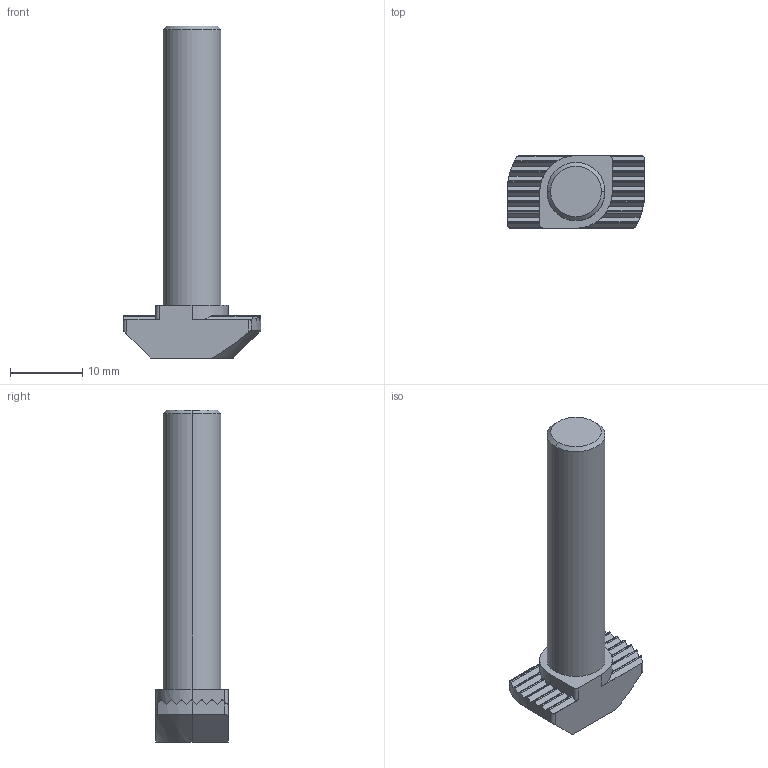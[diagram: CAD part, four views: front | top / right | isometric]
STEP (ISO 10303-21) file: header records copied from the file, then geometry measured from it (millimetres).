
FILE_DESCRIPTION(('STEP AP214'),'1');
FILE_NAME('fath_096hk1015m0840.stp','2017-04-24T02:19:46',('TraceParts'),('TraceParts S.A.'),'Spatial InterOp 3D',' ',' ');
FILE_SCHEMA(('automotive_design'));
Length unit declared in the file: millimetre
Products named in the file (1): fath_096hk1015m0840
Bounding box: 19 x 10 x 45.81 mm (x, y, z)
Volume: 2964.9 mm3; surface area: 1650.9 mm2
Topology: 1 solids, 1 shells, 87 faces, 248 edges, 164 vertices
Faces by surface type: plane 43, cylinder 40, cone 4
Entity records: 3621 total; most frequent: CARTESIAN_POINT 786, ORIENTED_EDGE 496, DIRECTION 390, EDGE_CURVE 248, VERTEX_POINT 164, AXIS2_PLACEMENT_3D 132, LINE 126, VECTOR 126
